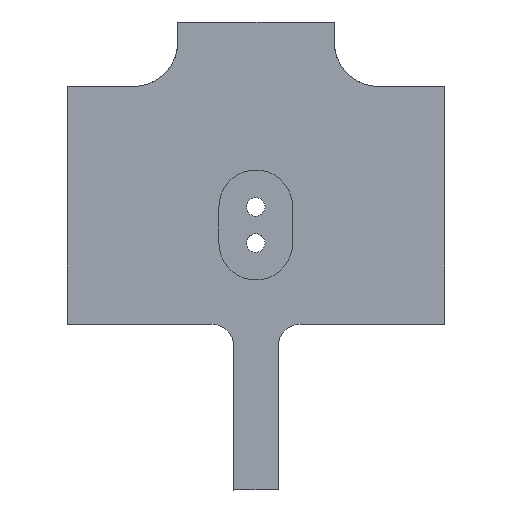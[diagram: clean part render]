
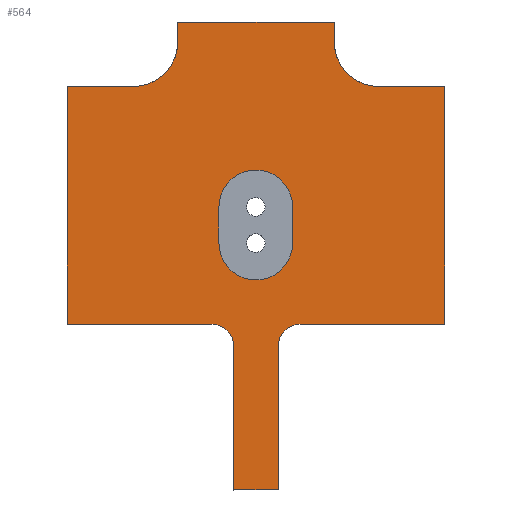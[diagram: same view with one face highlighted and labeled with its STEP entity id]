
A CAD part, top view. The second image highlights one B-rep face of the part: STEP entity #564.
In plain terms, the highlighted planar face has unit normal (0, 0, 1).
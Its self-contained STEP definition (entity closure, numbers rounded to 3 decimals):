
#21=FACE_BOUND('',#105,.T.);
#42=PLANE('',#625);
#71=FACE_OUTER_BOUND('',#104,.T.);
#104=EDGE_LOOP('',(#508,#509,#510,#511,#512,#513,#514,#515,#516,#517,#518,
#519,#520,#521,#522,#523));
#105=EDGE_LOOP('',(#524,#525,#526,#527));
#107=LINE('',#792,#167);
#112=LINE('',#806,#172);
#121=LINE('',#828,#181);
#135=LINE('',#870,#195);
#142=LINE('',#886,#202);
#148=LINE('',#898,#208);
#153=LINE('',#912,#213);
#154=LINE('',#914,#214);
#157=LINE('',#922,#217);
#158=LINE('',#924,#218);
#161=LINE('',#932,#221);
#162=LINE('',#934,#222);
#164=LINE('',#938,#224);
#165=LINE('',#940,#225);
#167=VECTOR('',#637,10.);
#172=VECTOR('',#650,10.);
#181=VECTOR('',#669,10.);
#195=VECTOR('',#703,10.);
#202=VECTOR('',#718,10.);
#208=VECTOR('',#728,10.);
#213=VECTOR('',#745,10.);
#214=VECTOR('',#748,10.);
#217=VECTOR('',#757,10.);
#218=VECTOR('',#760,10.);
#221=VECTOR('',#769,10.);
#222=VECTOR('',#772,10.);
#224=VECTOR('',#776,10.);
#225=VECTOR('',#779,10.);
#228=CIRCLE('',#584,20.);
#231=CIRCLE('',#589,20.);
#237=CIRCLE('',#603,24.);
#239=CIRCLE('',#612,12.);
#240=CIRCLE('',#616,12.);
#241=CIRCLE('',#620,24.);
#244=VERTEX_POINT('',#790);
#245=VERTEX_POINT('',#791);
#248=VERTEX_POINT('',#799);
#250=VERTEX_POINT('',#805);
#257=VERTEX_POINT('',#825);
#258=VERTEX_POINT('',#827);
#275=VERTEX_POINT('',#867);
#276=VERTEX_POINT('',#869);
#277=VERTEX_POINT('',#873);
#280=VERTEX_POINT('',#883);
#281=VERTEX_POINT('',#885);
#284=VERTEX_POINT('',#895);
#285=VERTEX_POINT('',#897);
#287=VERTEX_POINT('',#906);
#288=VERTEX_POINT('',#910);
#289=VERTEX_POINT('',#916);
#290=VERTEX_POINT('',#920);
#291=VERTEX_POINT('',#926);
#292=VERTEX_POINT('',#930);
#293=VERTEX_POINT('',#936);
#297=EDGE_CURVE('',#244,#245,#107,.T.);
#301=EDGE_CURVE('',#248,#244,#228,.T.);
#304=EDGE_CURVE('',#250,#248,#112,.T.);
#308=EDGE_CURVE('',#245,#250,#231,.T.);
#315=EDGE_CURVE('',#257,#258,#121,.T.);
#336=EDGE_CURVE('',#275,#276,#135,.T.);
#339=EDGE_CURVE('',#275,#277,#237,.T.);
#344=EDGE_CURVE('',#280,#281,#142,.T.);
#350=EDGE_CURVE('',#284,#285,#148,.T.);
#354=EDGE_CURVE('',#280,#287,#239,.T.);
#357=EDGE_CURVE('',#288,#287,#153,.T.);
#358=EDGE_CURVE('',#288,#285,#154,.T.);
#359=EDGE_CURVE('',#284,#289,#240,.T.);
#362=EDGE_CURVE('',#290,#289,#157,.T.);
#363=EDGE_CURVE('',#258,#290,#158,.T.);
#365=EDGE_CURVE('',#257,#291,#241,.T.);
#367=EDGE_CURVE('',#292,#291,#161,.T.);
#368=EDGE_CURVE('',#276,#292,#162,.T.);
#370=EDGE_CURVE('',#293,#277,#164,.T.);
#371=EDGE_CURVE('',#281,#293,#165,.T.);
#508=ORIENTED_EDGE('',*,*,#344,.F.);
#509=ORIENTED_EDGE('',*,*,#354,.T.);
#510=ORIENTED_EDGE('',*,*,#357,.F.);
#511=ORIENTED_EDGE('',*,*,#358,.T.);
#512=ORIENTED_EDGE('',*,*,#350,.F.);
#513=ORIENTED_EDGE('',*,*,#359,.T.);
#514=ORIENTED_EDGE('',*,*,#362,.F.);
#515=ORIENTED_EDGE('',*,*,#363,.F.);
#516=ORIENTED_EDGE('',*,*,#315,.F.);
#517=ORIENTED_EDGE('',*,*,#365,.T.);
#518=ORIENTED_EDGE('',*,*,#367,.F.);
#519=ORIENTED_EDGE('',*,*,#368,.F.);
#520=ORIENTED_EDGE('',*,*,#336,.F.);
#521=ORIENTED_EDGE('',*,*,#339,.T.);
#522=ORIENTED_EDGE('',*,*,#370,.F.);
#523=ORIENTED_EDGE('',*,*,#371,.F.);
#524=ORIENTED_EDGE('',*,*,#297,.T.);
#525=ORIENTED_EDGE('',*,*,#308,.T.);
#526=ORIENTED_EDGE('',*,*,#304,.T.);
#527=ORIENTED_EDGE('',*,*,#301,.T.);
#564=ADVANCED_FACE('',(#71,#21),#42,.F.);
#584=AXIS2_PLACEMENT_3D('',#800,#643,#644);
#589=AXIS2_PLACEMENT_3D('',#812,#657,#658);
#603=AXIS2_PLACEMENT_3D('',#875,#708,#709);
#612=AXIS2_PLACEMENT_3D('',#907,#739,#740);
#616=AXIS2_PLACEMENT_3D('',#917,#751,#752);
#620=AXIS2_PLACEMENT_3D('',#928,#764,#765);
#625=AXIS2_PLACEMENT_3D('',#941,#780,#781);
#637=DIRECTION('',(0.,1.,0.));
#643=DIRECTION('center_axis',(0.,0.,-1.));
#644=DIRECTION('ref_axis',(-1.,0.,0.));
#650=DIRECTION('',(0.,-1.,0.));
#657=DIRECTION('center_axis',(0.,0.,-1.));
#658=DIRECTION('ref_axis',(-1.,0.,0.));
#669=DIRECTION('',(1.,0.,0.));
#703=DIRECTION('',(0.,1.,0.));
#708=DIRECTION('center_axis',(0.,0.,-1.));
#709=DIRECTION('ref_axis',(1.,0.,0.));
#718=DIRECTION('',(-1.,0.,0.));
#728=DIRECTION('',(0.,-1.,0.));
#739=DIRECTION('center_axis',(0.,0.,-1.));
#740=DIRECTION('ref_axis',(0.,1.,0.));
#745=DIRECTION('',(0.,1.,0.));
#748=DIRECTION('',(1.,0.,0.));
#751=DIRECTION('center_axis',(0.,0.,-1.));
#752=DIRECTION('ref_axis',(-1.,0.,0.));
#757=DIRECTION('',(-1.,0.,0.));
#760=DIRECTION('',(0.,-1.,0.));
#764=DIRECTION('center_axis',(0.,0.,-1.));
#765=DIRECTION('ref_axis',(0.,-1.,0.));
#769=DIRECTION('',(0.,-1.,0.));
#772=DIRECTION('',(1.,0.,0.));
#776=DIRECTION('',(1.,0.,0.));
#779=DIRECTION('',(0.,1.,0.));
#780=DIRECTION('center_axis',(0.,0.,-1.));
#781=DIRECTION('ref_axis',(1.,0.,0.));
#790=CARTESIAN_POINT('',(159.378,170.34,0.));
#791=CARTESIAN_POINT('',(159.378,190.,0.));
#792=CARTESIAN_POINT('',(159.378,180.59,0.));
#799=CARTESIAN_POINT('',(199.378,170.34,0.));
#800=CARTESIAN_POINT('Origin',(179.378,170.34,0.));
#805=CARTESIAN_POINT('',(199.378,190.,0.));
#806=CARTESIAN_POINT('',(199.378,190.42,0.));
#812=CARTESIAN_POINT('Origin',(179.378,190.,0.));
#825=CARTESIAN_POINT('',(246.003,255.34,0.));
#827=CARTESIAN_POINT('',(282.003,255.34,0.));
#828=CARTESIAN_POINT('',(246.003,255.34,0.));
#867=CARTESIAN_POINT('',(137.003,279.34,0.));
#869=CARTESIAN_POINT('',(137.003,290.34,0.));
#870=CARTESIAN_POINT('',(137.003,279.34,0.));
#873=CARTESIAN_POINT('',(113.003,255.34,0.));
#875=CARTESIAN_POINT('Origin',(113.003,279.34,0.));
#883=CARTESIAN_POINT('',(155.503,126.34,0.));
#885=CARTESIAN_POINT('',(77.003,126.34,0.));
#886=CARTESIAN_POINT('',(282.003,126.34,0.));
#895=CARTESIAN_POINT('',(191.503,114.34,0.));
#897=CARTESIAN_POINT('',(191.503,36.34,0.));
#898=CARTESIAN_POINT('',(191.503,114.34,0.));
#906=CARTESIAN_POINT('',(167.503,114.34,0.));
#907=CARTESIAN_POINT('Origin',(155.503,114.34,0.));
#910=CARTESIAN_POINT('',(167.503,36.34,0.));
#912=CARTESIAN_POINT('',(167.503,31.34,0.));
#914=CARTESIAN_POINT('',(185.503,36.34,0.));
#916=CARTESIAN_POINT('',(203.503,126.34,0.));
#917=CARTESIAN_POINT('Origin',(203.503,114.34,0.));
#920=CARTESIAN_POINT('',(282.003,126.34,0.));
#922=CARTESIAN_POINT('',(282.003,126.34,0.));
#924=CARTESIAN_POINT('',(282.003,255.34,0.));
#926=CARTESIAN_POINT('',(222.003,279.34,0.));
#928=CARTESIAN_POINT('Origin',(246.003,279.34,0.));
#930=CARTESIAN_POINT('',(222.003,290.34,0.));
#932=CARTESIAN_POINT('',(222.003,323.7,0.));
#934=CARTESIAN_POINT('',(137.003,290.34,0.));
#936=CARTESIAN_POINT('',(77.003,255.34,0.));
#938=CARTESIAN_POINT('',(-14.997,255.34,0.));
#940=CARTESIAN_POINT('',(77.003,126.34,0.));
#941=CARTESIAN_POINT('Origin',(179.503,190.84,0.));
